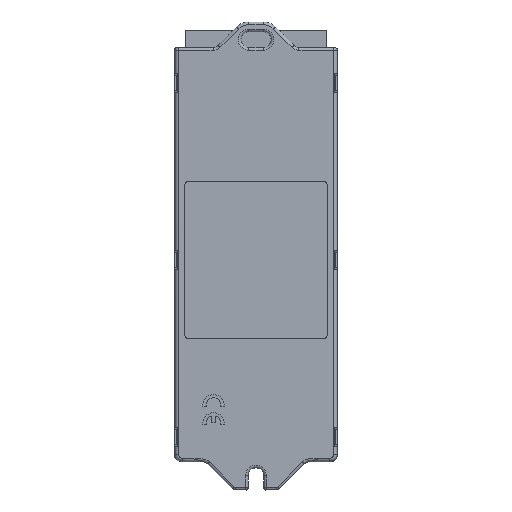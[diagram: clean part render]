
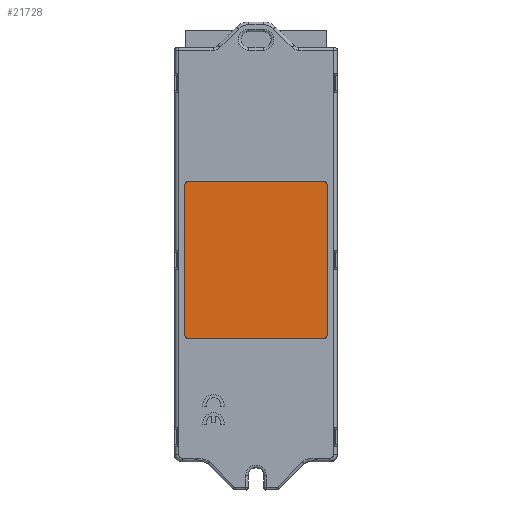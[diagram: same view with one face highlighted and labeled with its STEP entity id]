
A CAD part, front view. The second image highlights one B-rep face of the part: STEP entity #21728.
In plain terms, the highlighted planar face has unit normal (0, -1, 0).
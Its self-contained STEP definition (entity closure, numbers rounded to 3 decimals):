
#1441=CIRCLE('',#23405,1.);
#1443=CIRCLE('',#23409,1.);
#1444=CIRCLE('',#23412,1.);
#1445=CIRCLE('',#23413,1.);
#2396=FACE_OUTER_BOUND('',#3576,.T.);
#3576=EDGE_LOOP('',(#17329,#17330,#17331,#17332,#17333,#17334,#17335,#17336));
#5514=LINE('',#36282,#7539);
#5518=LINE('',#36294,#7543);
#5520=LINE('',#36298,#7545);
#5521=LINE('',#36302,#7546);
#7539=VECTOR('',#28173,10.);
#7543=VECTOR('',#28185,10.);
#7545=VECTOR('',#28189,10.);
#7546=VECTOR('',#28192,10.);
#9474=VERTEX_POINT('',#36273);
#9475=VERTEX_POINT('',#36275);
#9477=VERTEX_POINT('',#36281);
#9479=VERTEX_POINT('',#36287);
#9481=VERTEX_POINT('',#36293);
#9482=VERTEX_POINT('',#36297);
#9483=VERTEX_POINT('',#36299);
#9484=VERTEX_POINT('',#36301);
#12197=EDGE_CURVE('',#9474,#9475,#1441,.T.);
#12200=EDGE_CURVE('',#9475,#9477,#5514,.T.);
#12203=EDGE_CURVE('',#9477,#9479,#1443,.T.);
#12206=EDGE_CURVE('',#9479,#9481,#5518,.T.);
#12208=EDGE_CURVE('',#9482,#9474,#5520,.T.);
#12209=EDGE_CURVE('',#9483,#9482,#1444,.T.);
#12210=EDGE_CURVE('',#9484,#9483,#5521,.T.);
#12211=EDGE_CURVE('',#9481,#9484,#1445,.T.);
#17329=ORIENTED_EDGE('',*,*,#12206,.F.);
#17330=ORIENTED_EDGE('',*,*,#12203,.F.);
#17331=ORIENTED_EDGE('',*,*,#12200,.F.);
#17332=ORIENTED_EDGE('',*,*,#12197,.F.);
#17333=ORIENTED_EDGE('',*,*,#12208,.F.);
#17334=ORIENTED_EDGE('',*,*,#12209,.F.);
#17335=ORIENTED_EDGE('',*,*,#12210,.F.);
#17336=ORIENTED_EDGE('',*,*,#12211,.F.);
#19686=PLANE('',#23411);
#21728=ADVANCED_FACE('',(#2396),#19686,.T.);
#23405=AXIS2_PLACEMENT_3D('',#36276,#28167,#28168);
#23409=AXIS2_PLACEMENT_3D('',#36288,#28179,#28180);
#23411=AXIS2_PLACEMENT_3D('',#36296,#28187,#28188);
#23412=AXIS2_PLACEMENT_3D('',#36300,#28190,#28191);
#23413=AXIS2_PLACEMENT_3D('',#36303,#28193,#28194);
#28167=DIRECTION('center_axis',(0.,1.,0.));
#28168=DIRECTION('ref_axis',(-1.,0.,0.));
#28173=DIRECTION('',(0.,0.,1.));
#28179=DIRECTION('center_axis',(0.,1.,0.));
#28180=DIRECTION('ref_axis',(0.,0.,1.));
#28185=DIRECTION('',(1.,0.,0.));
#28187=DIRECTION('center_axis',(0.,-1.,0.));
#28188=DIRECTION('ref_axis',(0.,0.,-1.));
#28189=DIRECTION('',(-1.,0.,0.));
#28190=DIRECTION('center_axis',(0.,1.,0.));
#28191=DIRECTION('ref_axis',(0.,0.,-1.));
#28192=DIRECTION('',(0.,0.,-1.));
#28193=DIRECTION('center_axis',(0.,1.,0.));
#28194=DIRECTION('ref_axis',(1.,0.,0.));
#36273=CARTESIAN_POINT('',(-19.1,-7.35,-22.2));
#36275=CARTESIAN_POINT('',(-20.1,-7.35,-21.2));
#36276=CARTESIAN_POINT('Origin',(-19.1,-7.35,-21.2));
#36281=CARTESIAN_POINT('',(-20.1,-7.35,21.2));
#36282=CARTESIAN_POINT('',(-20.1,-7.35,21.2));
#36287=CARTESIAN_POINT('',(-19.1,-7.35,22.2));
#36288=CARTESIAN_POINT('Origin',(-19.1,-7.35,21.2));
#36293=CARTESIAN_POINT('',(19.1,-7.35,22.2));
#36294=CARTESIAN_POINT('',(19.1,-7.35,22.2));
#36296=CARTESIAN_POINT('Origin',(0.,-7.35,0.));
#36297=CARTESIAN_POINT('',(19.1,-7.35,-22.2));
#36298=CARTESIAN_POINT('',(-19.1,-7.35,-22.2));
#36299=CARTESIAN_POINT('',(20.1,-7.35,-21.2));
#36300=CARTESIAN_POINT('Origin',(19.1,-7.35,-21.2));
#36301=CARTESIAN_POINT('',(20.1,-7.35,21.2));
#36302=CARTESIAN_POINT('',(20.1,-7.35,-21.2));
#36303=CARTESIAN_POINT('Origin',(19.1,-7.35,21.2));
